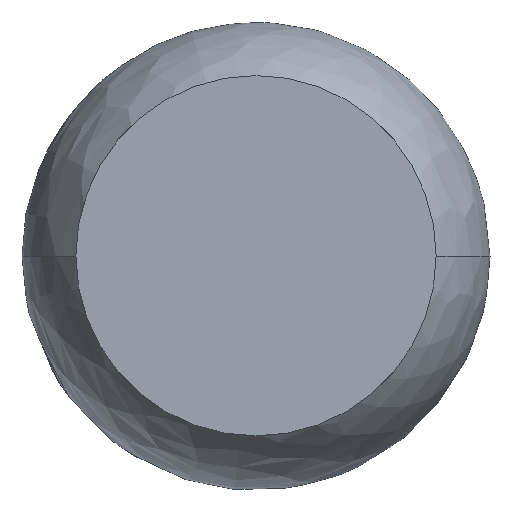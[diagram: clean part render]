
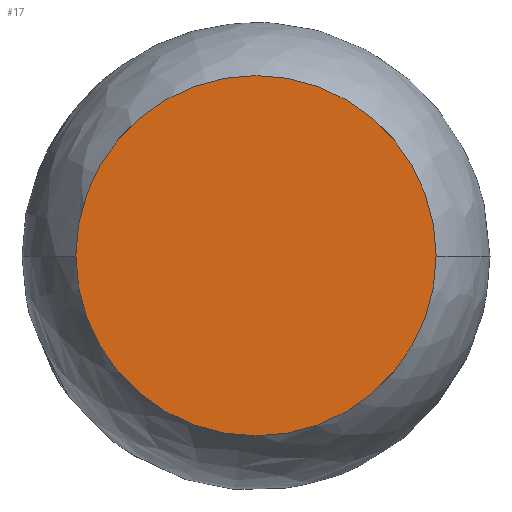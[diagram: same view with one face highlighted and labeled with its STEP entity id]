
A CAD part, top view. The second image highlights one B-rep face of the part: STEP entity #17.
In plain terms, the highlighted planar face has unit normal (0, 0, 1).
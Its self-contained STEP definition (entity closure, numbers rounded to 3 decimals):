
#17=ADVANCED_FACE('',(#24),#96,.T.);
#24=FACE_OUTER_BOUND('',#31,.T.);
#31=EDGE_LOOP('',(#46,#47));
#46=ORIENTED_EDGE('',*,*,#59,.T.);
#47=ORIENTED_EDGE('',*,*,#68,.T.);
#59=EDGE_CURVE('',#89,#94,#77,.T.);
#68=EDGE_CURVE('',#94,#89,#81,.T.);
#77=TRIMMED_CURVE($,#83,(#1186),(#1187),.T.,.CARTESIAN.);
#81=TRIMMED_CURVE($,#87,(#1388),(#1389),.T.,.CARTESIAN.);
#83=CIRCLE('',#192,50.037);
#87=CIRCLE('',#196,50.037);
#89=VERTEX_POINT('',#1178);
#94=VERTEX_POINT('',#1183);
#96=PLANE('',#191);
#191=AXIS2_PLACEMENT_3D('',#697,#201,$);
#192=AXIS2_PLACEMENT_3D($,#1185,#202,#203);
#196=AXIS2_PLACEMENT_3D($,#1387,#210,#211);
#201=DIRECTION('',(0.,0.,1.));
#202=DIRECTION('',(0.,0.,1.));
#203=DIRECTION('',(1.,0.,0.));
#210=DIRECTION('',(0.,0.,1.));
#211=DIRECTION('',(-1.,0.,0.));
#697=CARTESIAN_POINT('',(-51.037,-51.037,0.));
#1178=CARTESIAN_POINT('',(50.037,0.,0.));
#1183=CARTESIAN_POINT('',(-50.036,0.,0.));
#1185=CARTESIAN_POINT('',(0.001,0.,0.));
#1186=CARTESIAN_POINT('',(50.037,0.,0.));
#1187=CARTESIAN_POINT('',(-50.036,0.,0.));
#1387=CARTESIAN_POINT('',(0.001,0.,0.));
#1388=CARTESIAN_POINT('',(-50.036,0.,0.));
#1389=CARTESIAN_POINT('',(50.037,0.,0.));
